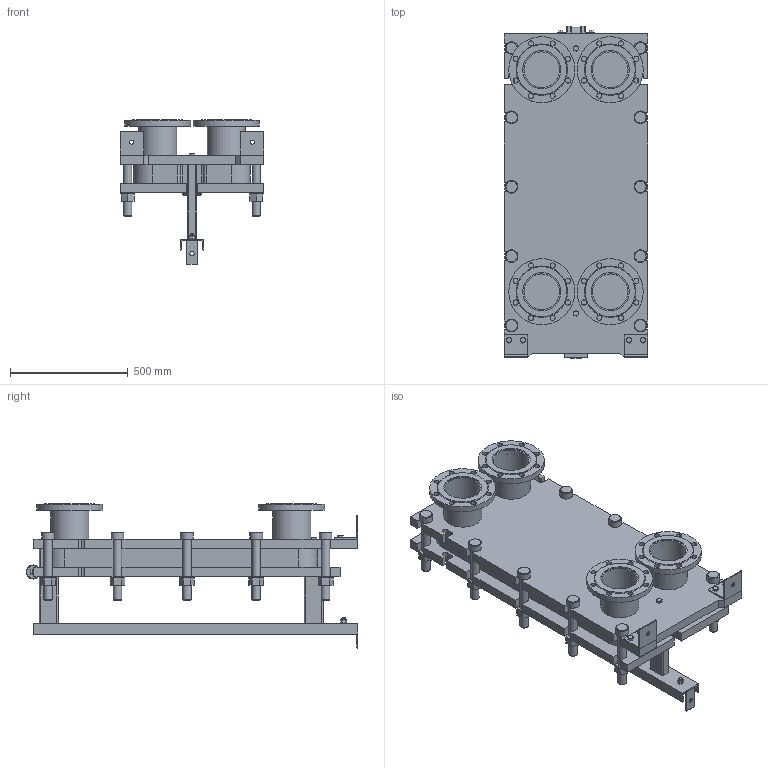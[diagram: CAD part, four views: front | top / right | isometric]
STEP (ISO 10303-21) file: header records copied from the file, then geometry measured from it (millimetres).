
FILE_DESCRIPTION(/* description */ (''),/* implementation_level */ '2;1');
FILE_NAME(/* name */ 'C:\Users\zhuro\Desktop\ENCO\TO\ЭН-041\ЭН-0,5-041-23-1.stp',/* time_stamp */ '2022-06-06T10:50:01+03:00',/* author */ ('zhuro'),/* organization */ (''),/* preprocessor_version */ 'ST-DEVELOPER v18.1',/* originating_system */ 'Autodesk Inventor 2022',/* authorisation */ '');
FILE_SCHEMA (('AUTOMOTIVE_DESIGN { 1 0 10303 214 3 1 1 }'));
Length unit declared in the file: millimetre
Products named in the file (1): ЭН-0,5-041-23-1
Bounding box: 610 x 1406.5 x 612.5 mm (x, y, z)
Volume: 119691563 mm3; surface area: 7326724.3 mm2
Topology: 52 solids, 52 shells, 711 faces, 1696 edges, 1094 vertices
Faces by surface type: plane 487, cylinder 177, cone 41, torus 6
Full cylindrical faces by diameter (mm): 8 x4, 10 x2, 16 x8, 18 x3, 22 x32, 36 x24, 50 x1, 54 x10, 60 x12, 151 x4, 161 x8, 280 x4
Entity records: 22667 total; most frequent: CARTESIAN_POINT 5230, DIRECTION 3644, ORIENTED_EDGE 3392, EDGE_CURVE 1696, AXIS2_PLACEMENT_3D 1272, LINE 1100, VECTOR 1100, VERTEX_POINT 1094
